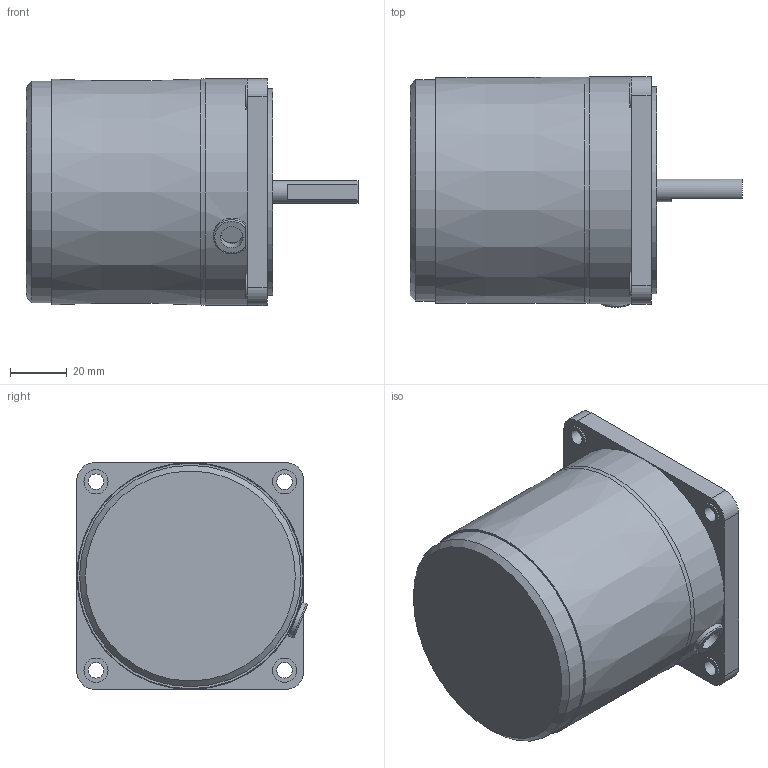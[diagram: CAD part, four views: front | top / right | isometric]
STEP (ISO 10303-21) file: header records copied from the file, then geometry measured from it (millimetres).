
FILE_DESCRIPTION((''),'2;1');
FILE_NAME('D:\STP파일\25W MOTOR\S8I15D.stp','2013-05-20T16:33:03',('leebh'),(''),'Autodesk Inventor 2011','Autodesk Inventor 2011','');
FILE_SCHEMA(('AUTOMOTIVE_DESIGN { 1 0 10303 214 1 1 1 1 }'));
Length unit declared in the file: millimetre
Products named in the file (1): 부품2
Bounding box: 117 x 81.2 x 80 mm (x, y, z)
Volume: 428008.8 mm3; surface area: 37458.8 mm2
Topology: 1 solids, 2 shells, 83 faces, 189 edges, 123 vertices
Faces by surface type: plane 48, cylinder 31, torus 2, cone 2
Full cylindrical faces by diameter (mm): 5.5 x4, 8 x2, 8.5 x4, 34 x1, 73 x1, 78 x1, 80 x1
Entity records: 2336 total; most frequent: CARTESIAN_POINT 434, DIRECTION 406, ORIENTED_EDGE 342, EDGE_CURVE 171, AXIS2_PLACEMENT_3D 156, VERTEX_POINT 122, EDGE_LOOP 121, VECTOR 94
